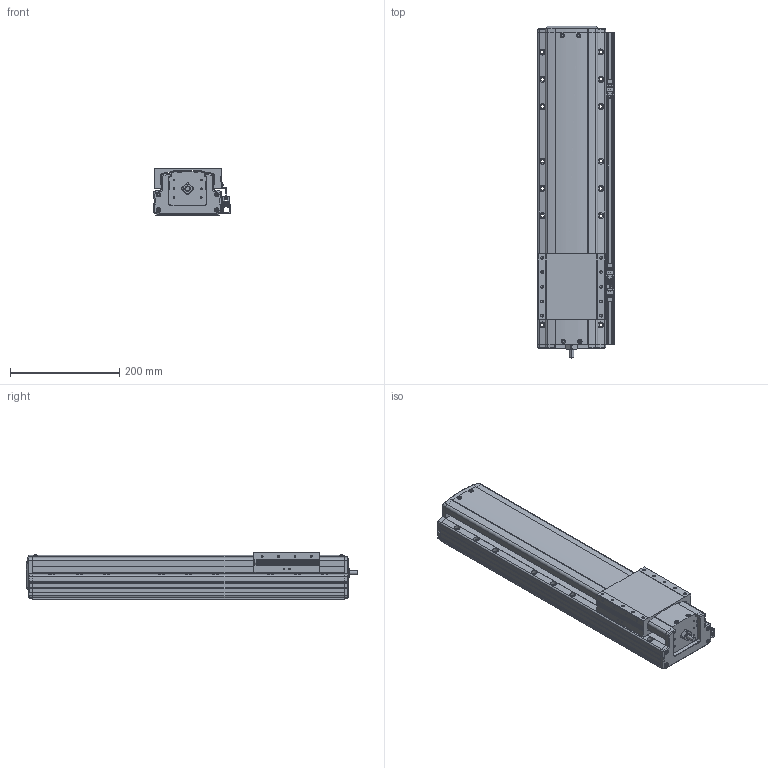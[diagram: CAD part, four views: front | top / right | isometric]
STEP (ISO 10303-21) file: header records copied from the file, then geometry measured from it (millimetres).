
FILE_DESCRIPTION(('STEP AP214'),'1');
FILE_NAME('Z:/Web/3D/PSA125/STP/PSA125-350 (3D)/PSA125ㅁㅁ-350+3SR.stp','2014-06-22T23:52:34',(' '),(' '),'Spatial InterOp 3D',' ',' ');
FILE_SCHEMA(('automotive_design'));
Length unit declared in the file: millimetre
Products named in the file (36): 스크루 : Round - M4.0 x 10.0; RRCV-PA120; SLIDE; BASE; FRCV-PA120-1(기준 뿔 제거); RR1500; 스크루 : Round - M4.0 x 6.0; 너트 : Square - M10.0 x 220.7419; EE-SX674; SBK-SX674-352; 스크루 : Round - M3.0 x 6.0; M3.0 x 6.0; SRL-16x17-380L; SGD-PA95; 스크루 : Round - M3.0 x 8.0
Bounding box: 141 x 608.1 x 86 mm (x, y, z)
Volume: 5034332.2 mm3; surface area: 510563.5 mm2
Topology: 36 solids, 36 shells, 2339 faces, 6257 edges, 4022 vertices
Faces by surface type: plane 1363, cylinder 648, cone 220, sphere 52, bspline 31, torus 25
Entity records: 93741 total; most frequent: CARTESIAN_POINT 15350, DIRECTION 12419, ORIENTED_EDGE 12278, EDGE_CURVE 6139, LINE 4211, VECTOR 4211, AXIS2_PLACEMENT_3D 4104, VERTEX_POINT 4022
